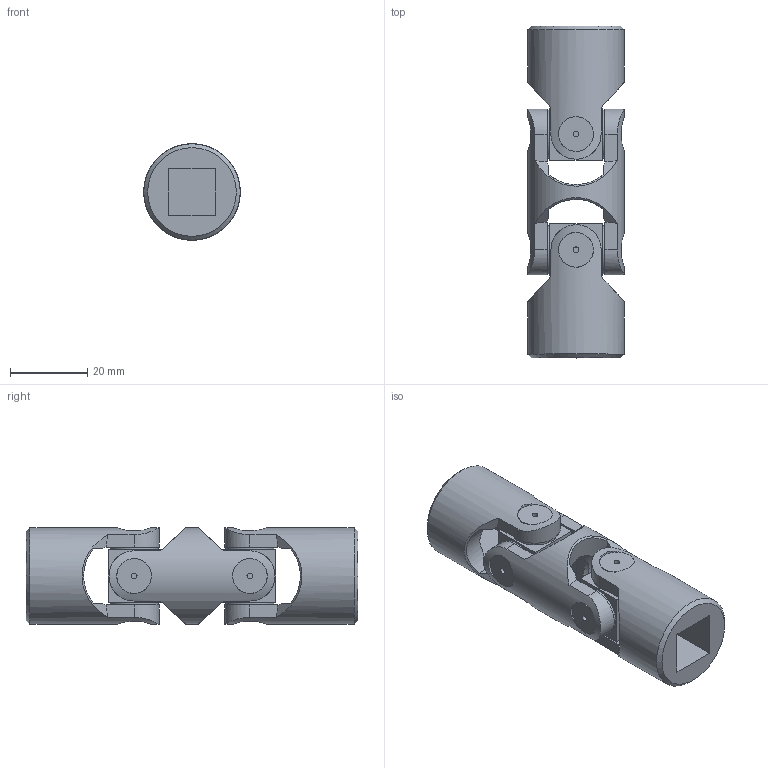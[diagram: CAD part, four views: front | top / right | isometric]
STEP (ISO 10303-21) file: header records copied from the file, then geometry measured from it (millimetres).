
FILE_DESCRIPTION(/* description */ (''),/* implementation_level */ '2;1');
FILE_NAME(/* name */ '\\SRV2016\Societa\Stefano\Disegni 3D\00Catalogo 3D\02Doppi GD-GBD\SG0D122Q.stp',/* time_stamp */ '2021-11-22T17:14:12+01:00',/* author */ ('acquisti'),/* organization */ (''),/* preprocessor_version */ 'ST-DEVELOPER v15.6',/* originating_system */ 'Autodesk Inventor 2015',/* authorisation */ '');
FILE_SCHEMA (('AUTOMOTIVE_DESIGN { 1 0 10303 214 3 1 1 }'));
Length unit declared in the file: millimetre
Products named in the file (4): 04G MOD; 04G SFE; 04G MOQ; Ø25_04GD-00_SG0D1200
Assembly tree (5 placements, depth 2):
  Ø25_04GD-00_SG0D1200
    04G MOD
    04G SFE  x2
    04G MOQ  x2
Bounding box: 25 x 86 x 25 mm (x, y, z)
Volume: 26828.3 mm3; surface area: 13753.1 mm2
Topology: 5 solids, 5 shells, 179 faces, 433 edges, 284 vertices
Faces by surface type: plane 78, cylinder 69, cone 28, torus 4
Full cylindrical faces by diameter (mm): 1.5 x8, 12.5 x8, 13 x2, 25 x3
Entity records: 4108 total; most frequent: CARTESIAN_POINT 1411, ORIENTED_EDGE 548, DIRECTION 510, EDGE_CURVE 274, AXIS2_PLACEMENT_3D 223, VERTEX_POINT 192, EDGE_LOOP 158, FACE_OUTER_BOUND 121
